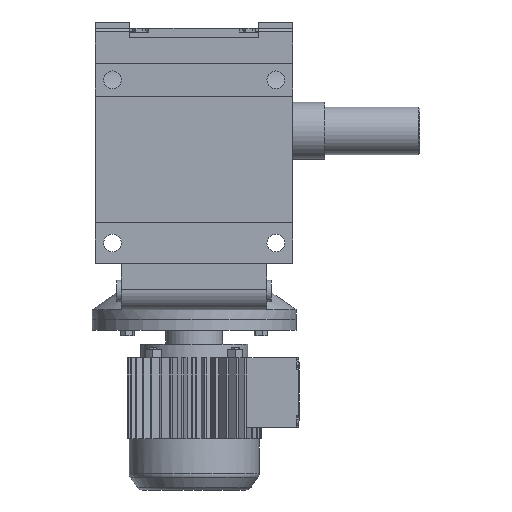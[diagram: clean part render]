
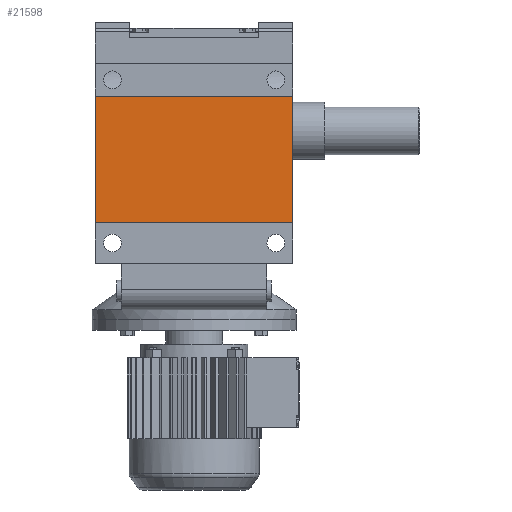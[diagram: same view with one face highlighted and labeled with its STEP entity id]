
A CAD part, front view. The second image highlights one B-rep face of the part: STEP entity #21598.
In plain terms, the highlighted planar face has unit normal (0, -1, 0).
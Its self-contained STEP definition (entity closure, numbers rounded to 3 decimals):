
#9170 = PLANE('',#9171);
#9171 = AXIS2_PLACEMENT_3D('',#9172,#9173,#9174);
#9172 = CARTESIAN_POINT('',(-145.,-214.725,119.));
#9173 = DIRECTION('',(1.,0.,0.));
#9174 = DIRECTION('',(0.,0.,-1.));
#10595 = PLANE('',#10596);
#10596 = AXIS2_PLACEMENT_3D('',#10597,#10598,#10599);
#10597 = CARTESIAN_POINT('',(145.,-214.725,119.));
#10598 = DIRECTION('',(1.,0.,0.));
#10599 = DIRECTION('',(0.,0.,-1.));
#16613 = VERTEX_POINT('',#16614);
#16614 = CARTESIAN_POINT('',(-145.,-255.725,-135.));
#16628 = PLANE('',#16629);
#16629 = AXIS2_PLACEMENT_3D('',#16630,#16631,#16632);
#16630 = CARTESIAN_POINT('',(145.,-255.725,-135.));
#16631 = DIRECTION('',(0.,0.,-1.));
#16632 = DIRECTION('',(-1.,0.,0.));
#16640 = EDGE_CURVE('',#16641,#16613,#16643,.T.);
#16641 = VERTEX_POINT('',#16642);
#16642 = CARTESIAN_POINT('',(-145.,-255.725,51.));
#16643 = SURFACE_CURVE('',#16644,(#16648,#16655),.PCURVE_S1.);
#16644 = LINE('',#16645,#16646);
#16645 = CARTESIAN_POINT('',(-145.,-255.725,51.));
#16646 = VECTOR('',#16647,1.);
#16647 = DIRECTION('',(0.,0.,-1.));
#16648 = PCURVE('',#9170,#16649);
#16649 = DEFINITIONAL_REPRESENTATION('',(#16650),#16654);
#16650 = LINE('',#16651,#16652);
#16651 = CARTESIAN_POINT('',(68.,-41.));
#16652 = VECTOR('',#16653,1.);
#16653 = DIRECTION('',(1.,0.));
#16654 = ( GEOMETRIC_REPRESENTATION_CONTEXT(2) 
PARAMETRIC_REPRESENTATION_CONTEXT() REPRESENTATION_CONTEXT('2D SPACE',''
  ) );
#16655 = PCURVE('',#16656,#16661);
#16656 = PLANE('',#16657);
#16657 = AXIS2_PLACEMENT_3D('',#16658,#16659,#16660);
#16658 = CARTESIAN_POINT('',(107.,-255.725,124.));
#16659 = DIRECTION('',(0.,1.,0.));
#16660 = DIRECTION('',(0.,0.,1.));
#16661 = DEFINITIONAL_REPRESENTATION('',(#16662),#16666);
#16662 = LINE('',#16663,#16664);
#16663 = CARTESIAN_POINT('',(-73.,-252.));
#16664 = VECTOR('',#16665,1.);
#16665 = DIRECTION('',(-1.,0.));
#16666 = ( GEOMETRIC_REPRESENTATION_CONTEXT(2) 
PARAMETRIC_REPRESENTATION_CONTEXT() REPRESENTATION_CONTEXT('2D SPACE',''
  ) );
#16684 = PLANE('',#16685);
#16685 = AXIS2_PLACEMENT_3D('',#16686,#16687,#16688);
#16686 = CARTESIAN_POINT('',(145.,-255.725,51.));
#16687 = DIRECTION('',(0.,0.,1.));
#16688 = DIRECTION('',(0.,-1.,0.));
#19494 = VERTEX_POINT('',#19495);
#19495 = CARTESIAN_POINT('',(145.,-255.725,51.));
#19516 = EDGE_CURVE('',#19494,#19517,#19519,.T.);
#19517 = VERTEX_POINT('',#19518);
#19518 = CARTESIAN_POINT('',(145.,-255.725,-135.));
#19519 = SURFACE_CURVE('',#19520,(#19524,#19531),.PCURVE_S1.);
#19520 = LINE('',#19521,#19522);
#19521 = CARTESIAN_POINT('',(145.,-255.725,51.));
#19522 = VECTOR('',#19523,1.);
#19523 = DIRECTION('',(0.,0.,-1.));
#19524 = PCURVE('',#10595,#19525);
#19525 = DEFINITIONAL_REPRESENTATION('',(#19526),#19530);
#19526 = LINE('',#19527,#19528);
#19527 = CARTESIAN_POINT('',(68.,-41.));
#19528 = VECTOR('',#19529,1.);
#19529 = DIRECTION('',(1.,0.));
#19530 = ( GEOMETRIC_REPRESENTATION_CONTEXT(2) 
PARAMETRIC_REPRESENTATION_CONTEXT() REPRESENTATION_CONTEXT('2D SPACE',''
  ) );
#19531 = PCURVE('',#16656,#19532);
#19532 = DEFINITIONAL_REPRESENTATION('',(#19533),#19537);
#19533 = LINE('',#19534,#19535);
#19534 = CARTESIAN_POINT('',(-73.,38.));
#19535 = VECTOR('',#19536,1.);
#19536 = DIRECTION('',(-1.,0.));
#19537 = ( GEOMETRIC_REPRESENTATION_CONTEXT(2) 
PARAMETRIC_REPRESENTATION_CONTEXT() REPRESENTATION_CONTEXT('2D SPACE',''
  ) );
#21490 = EDGE_CURVE('',#19517,#16613,#21491,.T.);
#21491 = SURFACE_CURVE('',#21492,(#21496,#21503),.PCURVE_S1.);
#21492 = LINE('',#21493,#21494);
#21493 = CARTESIAN_POINT('',(145.,-255.725,-135.));
#21494 = VECTOR('',#21495,1.);
#21495 = DIRECTION('',(-1.,0.,0.));
#21496 = PCURVE('',#16628,#21497);
#21497 = DEFINITIONAL_REPRESENTATION('',(#21498),#21502);
#21498 = LINE('',#21499,#21500);
#21499 = CARTESIAN_POINT('',(0.,0.));
#21500 = VECTOR('',#21501,1.);
#21501 = DIRECTION('',(1.,0.));
#21502 = ( GEOMETRIC_REPRESENTATION_CONTEXT(2) 
PARAMETRIC_REPRESENTATION_CONTEXT() REPRESENTATION_CONTEXT('2D SPACE',''
  ) );
#21503 = PCURVE('',#16656,#21504);
#21504 = DEFINITIONAL_REPRESENTATION('',(#21505),#21509);
#21505 = LINE('',#21506,#21507);
#21506 = CARTESIAN_POINT('',(-259.,38.));
#21507 = VECTOR('',#21508,1.);
#21508 = DIRECTION('',(0.,-1.));
#21509 = ( GEOMETRIC_REPRESENTATION_CONTEXT(2) 
PARAMETRIC_REPRESENTATION_CONTEXT() REPRESENTATION_CONTEXT('2D SPACE',''
  ) );
#21542 = EDGE_CURVE('',#19494,#16641,#21543,.T.);
#21543 = SURFACE_CURVE('',#21544,(#21548,#21555),.PCURVE_S1.);
#21544 = LINE('',#21545,#21546);
#21545 = CARTESIAN_POINT('',(145.,-255.725,51.));
#21546 = VECTOR('',#21547,1.);
#21547 = DIRECTION('',(-1.,0.,0.));
#21548 = PCURVE('',#16684,#21549);
#21549 = DEFINITIONAL_REPRESENTATION('',(#21550),#21554);
#21550 = LINE('',#21551,#21552);
#21551 = CARTESIAN_POINT('',(0.,0.));
#21552 = VECTOR('',#21553,1.);
#21553 = DIRECTION('',(0.,-1.));
#21554 = ( GEOMETRIC_REPRESENTATION_CONTEXT(2) 
PARAMETRIC_REPRESENTATION_CONTEXT() REPRESENTATION_CONTEXT('2D SPACE',''
  ) );
#21555 = PCURVE('',#16656,#21556);
#21556 = DEFINITIONAL_REPRESENTATION('',(#21557),#21561);
#21557 = LINE('',#21558,#21559);
#21558 = CARTESIAN_POINT('',(-73.,38.));
#21559 = VECTOR('',#21560,1.);
#21560 = DIRECTION('',(0.,-1.));
#21561 = ( GEOMETRIC_REPRESENTATION_CONTEXT(2) 
PARAMETRIC_REPRESENTATION_CONTEXT() REPRESENTATION_CONTEXT('2D SPACE',''
  ) );
#21598 = ADVANCED_FACE('',(#21599),#16656,.F.);
#21599 = FACE_BOUND('',#21600,.T.);
#21600 = EDGE_LOOP('',(#21601,#21602,#21603,#21604));
#21601 = ORIENTED_EDGE('',*,*,#21542,.T.);
#21602 = ORIENTED_EDGE('',*,*,#16640,.T.);
#21603 = ORIENTED_EDGE('',*,*,#21490,.F.);
#21604 = ORIENTED_EDGE('',*,*,#19516,.F.);
